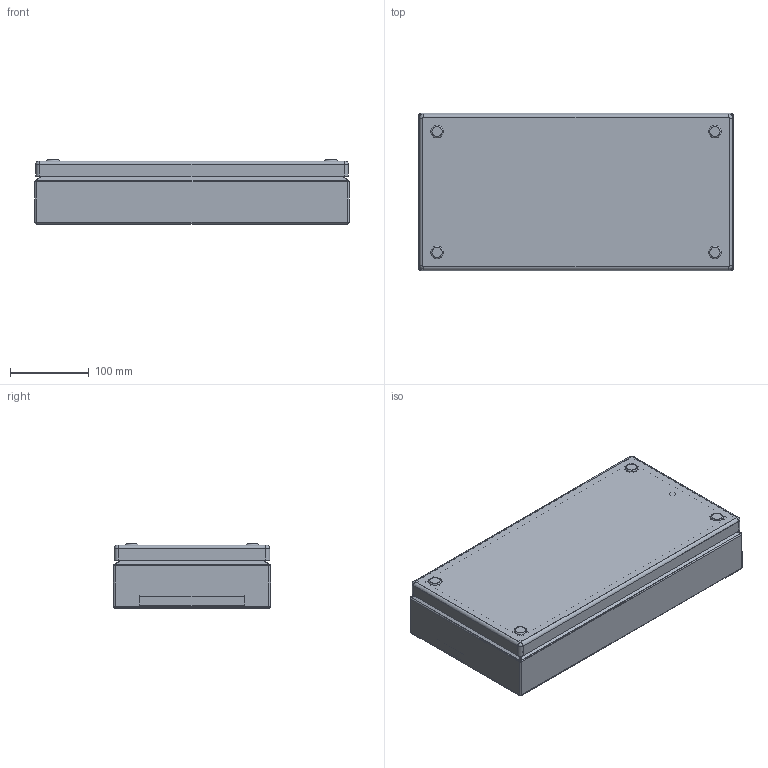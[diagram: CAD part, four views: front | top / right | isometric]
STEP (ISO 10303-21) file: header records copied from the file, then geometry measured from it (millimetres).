
FILE_DESCRIPTION (( 'STEP AP203' ), '1' );
FILE_NAME ('EG040208.A.STEP', '2023-09-01T14:32:25', ( '' ), ( '' ), 'SwSTEP 2.0', 'SolidWorks 2022', '' );
FILE_SCHEMA (( 'CONFIG_CONTROL_DESIGN' ));
Length unit declared in the file: millimetre
Products named in the file (3): AR_EGRAN.A_pannello_0400x0200; AR_EGRAN.A_involucro_0400x0200x080; EG040208.A
Assembly tree (2 placements, depth 2):
  EG040208.A
    AR_EGRAN.A_involucro_0400x0200x080
    AR_EGRAN.A_pannello_0400x0200
Bounding box: 400 x 200 x 81.5 mm (x, y, z)
Volume: 382008.7 mm3; surface area: 570365.6 mm2
Topology: 2 solids, 2 shells, 247 faces, 584 edges, 335 vertices
Faces by surface type: cylinder 117, plane 78, torus 28, sphere 16, bspline 8
Full cylindrical faces by diameter (mm): 4.2 x14, 5.2 x4, 5.5 x1, 6 x1, 8 x1, 10.2 x4, 16 x4
Entity records: 7313 total; most frequent: CARTESIAN_POINT 1581, DIRECTION 1208, ORIENTED_EDGE 1022, EDGE_CURVE 511, AXIS2_PLACEMENT_3D 486, EDGE_LOOP 344, VERTEX_POINT 319, FACE_OUTER_BOUND 288
